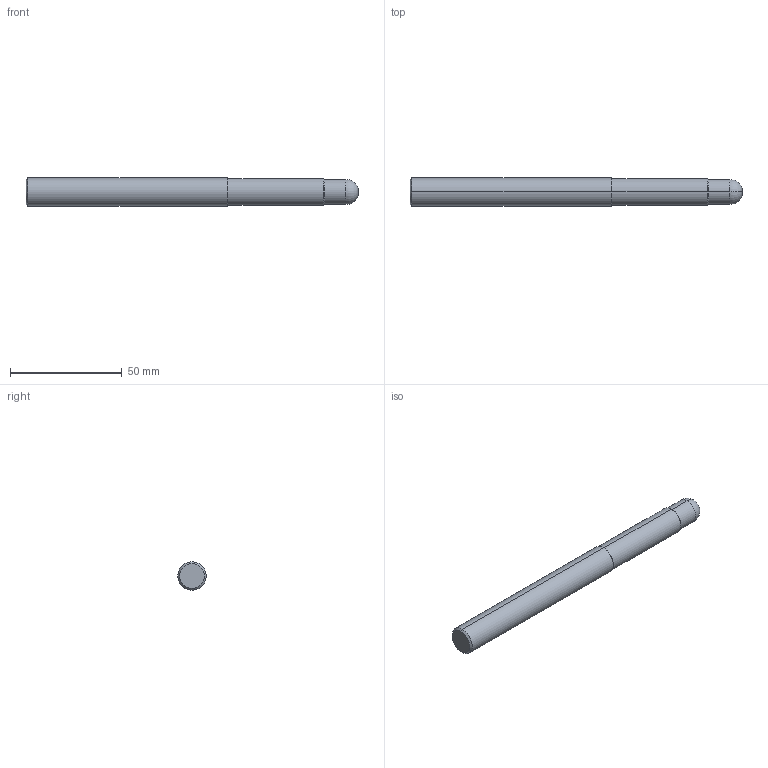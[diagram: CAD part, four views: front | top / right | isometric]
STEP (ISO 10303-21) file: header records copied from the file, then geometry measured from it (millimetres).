
FILE_DESCRIPTION (( 'STEP AP214' ), '1' );
FILE_NAME ('01-0233.STEP', '2021-02-09T23:59:54', ( 'USER' ), ( '' ), 'SwSTEP 2.0', 'SolidWorks 2018', '' );
FILE_SCHEMA (( 'AUTOMOTIVE_DESIGN' ));
Length unit declared in the file: millimetre
Products named in the file (2): 01-0233
Bounding box: 148.8 x 12.7 x 12.7 mm (x, y, z)
Volume: 17730.8 mm3; surface area: 5910.2 mm2
Topology: 1 solids, 1 shells, 16 faces, 30 edges, 16 vertices
Faces by surface type: cone 6, cylinder 6, torus 2, plane 2
Entity records: 445 total; most frequent: DIRECTION 84, CARTESIAN_POINT 64, ORIENTED_EDGE 60, AXIS2_PLACEMENT_3D 36, EDGE_CURVE 30, CIRCLE 18, ADVANCED_FACE 16, FACE_OUTER_BOUND 16
